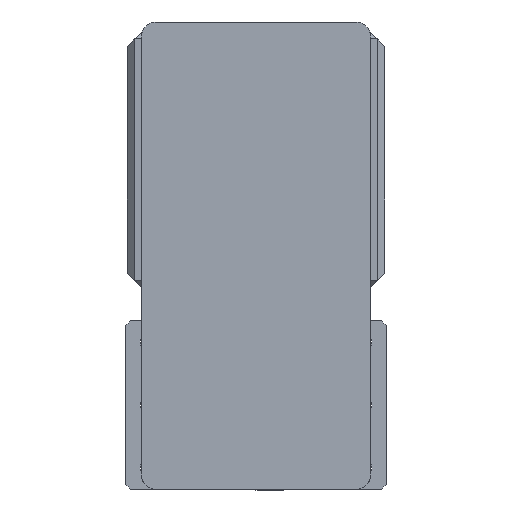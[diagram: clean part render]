
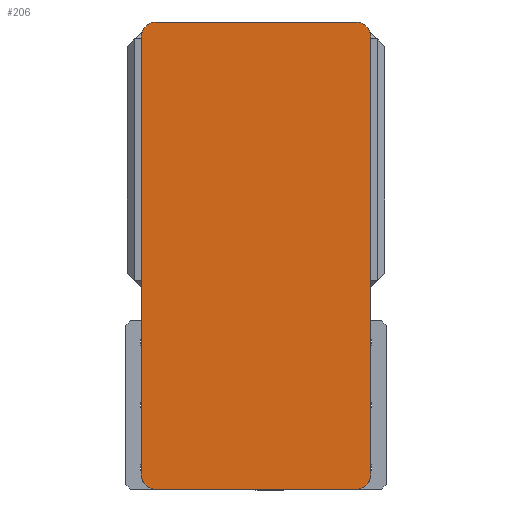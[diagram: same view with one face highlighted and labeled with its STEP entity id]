
A CAD part, left-side view. The second image highlights one B-rep face of the part: STEP entity #206.
In plain terms, the highlighted planar face has unit normal (-1, 0, 0) as drawn and (0, 0, 1) by its records, which use the part's own axes.
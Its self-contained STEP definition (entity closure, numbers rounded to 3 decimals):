
#206 = ADVANCED_FACE ( 'NONE', ( #10345 ), #19148, .T. ) ;
#280 = CARTESIAN_POINT ( 'NONE',  ( -65., 152.5, 105. ) ) ;
#453 = CARTESIAN_POINT ( 'NONE',  ( 65., 152.5, 105. ) ) ;
#500 = EDGE_CURVE ( 'NONE', #7781, #5887, #4220, .T. ) ;
#556 = VERTEX_POINT ( 'NONE', #18451 ) ;
#782 = DIRECTION ( 'NONE',  ( 0., 0., 1. ) ) ;
#800 = CARTESIAN_POINT ( 'NONE',  ( -75., -142.5, 105. ) ) ;
#1162 = CARTESIAN_POINT ( 'NONE',  ( 75., -142.5, 105. ) ) ;
#1249 = DIRECTION ( 'NONE',  ( 1., 0., 0. ) ) ;
#1511 = CARTESIAN_POINT ( 'NONE',  ( -65., 142.5, 105. ) ) ;
#1608 = ORIENTED_EDGE ( 'NONE', *, *, #3903, .T. ) ;
#1896 = VERTEX_POINT ( 'NONE', #800 ) ;
#2052 = VECTOR ( 'NONE', #10093, 1000. ) ;
#2179 = VECTOR ( 'NONE', #8740, 1000. ) ;
#2619 = VERTEX_POINT ( 'NONE', #453 ) ;
#2877 = DIRECTION ( 'NONE',  ( 0., 0., 1. ) ) ;
#3011 = DIRECTION ( 'NONE',  ( 1., 0., 0. ) ) ;
#3428 = AXIS2_PLACEMENT_3D ( 'NONE', #10147, #782, #11724 ) ;
#3707 = VERTEX_POINT ( 'NONE', #6485 ) ;
#3903 = EDGE_CURVE ( 'NONE', #5887, #1896, #6477, .T. ) ;
#4108 = AXIS2_PLACEMENT_3D ( 'NONE', #1511, #15564, #16741 ) ;
#4220 = CIRCLE ( 'NONE', #4108, 10. ) ;
#4954 = EDGE_CURVE ( 'NONE', #3707, #8727, #9796, .T. ) ;
#5160 = CARTESIAN_POINT ( 'NONE',  ( -75., -152.5, 105. ) ) ;
#5264 = ORIENTED_EDGE ( 'NONE', *, *, #500, .T. ) ;
#5332 = AXIS2_PLACEMENT_3D ( 'NONE', #19954, #10592, #1249 ) ;
#5887 = VERTEX_POINT ( 'NONE', #13084 ) ;
#6188 = LINE ( 'NONE', #6954, #2052 ) ;
#6477 = LINE ( 'NONE', #19519, #13723 ) ;
#6485 = CARTESIAN_POINT ( 'NONE',  ( 65., -152.5, 105. ) ) ;
#6954 = CARTESIAN_POINT ( 'NONE',  ( 75., 152.5, 105. ) ) ;
#7592 = CARTESIAN_POINT ( 'NONE',  ( -65., -152.5, 105. ) ) ;
#7781 = VERTEX_POINT ( 'NONE', #280 ) ;
#8109 = EDGE_CURVE ( 'NONE', #2619, #7781, #17838, .T. ) ;
#8598 = DIRECTION ( 'NONE',  ( 0., -1., 0. ) ) ;
#8727 = VERTEX_POINT ( 'NONE', #1162 ) ;
#8740 = DIRECTION ( 'NONE',  ( -1., 0., 0. ) ) ;
#9092 = CARTESIAN_POINT ( 'NONE',  ( 65., 142.5, 105. ) ) ;
#9160 = ORIENTED_EDGE ( 'NONE', *, *, #4954, .T. ) ;
#9653 = EDGE_CURVE ( 'NONE', #1896, #15066, #19730, .T. ) ;
#9796 = CIRCLE ( 'NONE', #3428, 10. ) ;
#9802 = DIRECTION ( 'NONE',  ( 1., 0., 0. ) ) ;
#10039 = ORIENTED_EDGE ( 'NONE', *, *, #15560, .T. ) ;
#10093 = DIRECTION ( 'NONE',  ( 0., 1., 0. ) ) ;
#10147 = CARTESIAN_POINT ( 'NONE',  ( 65., -142.5, 105. ) ) ;
#10345 = FACE_OUTER_BOUND ( 'NONE', #10849, .T. ) ;
#10414 = VECTOR ( 'NONE', #9802, 1000. ) ;
#10592 = DIRECTION ( 'NONE',  ( 0., 0., 1. ) ) ;
#10658 = DIRECTION ( 'NONE',  ( 1., 0., 0. ) ) ;
#10849 = EDGE_LOOP ( 'NONE', ( #11201, #9160, #10039, #18515, #18473, #5264, #1608, #15985 ) ) ;
#11201 = ORIENTED_EDGE ( 'NONE', *, *, #11250, .T. ) ;
#11250 = EDGE_CURVE ( 'NONE', #15066, #3707, #19206, .T. ) ;
#11724 = DIRECTION ( 'NONE',  ( 1., 0., 0. ) ) ;
#11803 = CARTESIAN_POINT ( 'NONE',  ( -75., 152.5, 105. ) ) ;
#12882 = AXIS2_PLACEMENT_3D ( 'NONE', #19022, #2877, #3011 ) ;
#13084 = CARTESIAN_POINT ( 'NONE',  ( -75., 142.5, 105. ) ) ;
#13723 = VECTOR ( 'NONE', #8598, 1000. ) ;
#15066 = VERTEX_POINT ( 'NONE', #7592 ) ;
#15560 = EDGE_CURVE ( 'NONE', #8727, #556, #6188, .T. ) ;
#15564 = DIRECTION ( 'NONE',  ( 0., 0., 1. ) ) ;
#15985 = ORIENTED_EDGE ( 'NONE', *, *, #9653, .T. ) ;
#16012 = AXIS2_PLACEMENT_3D ( 'NONE', #9092, #20019, #10658 ) ;
#16741 = DIRECTION ( 'NONE',  ( 1., 0., 0. ) ) ;
#16804 = CIRCLE ( 'NONE', #16012, 10. ) ;
#17838 = LINE ( 'NONE', #11803, #2179 ) ;
#18451 = CARTESIAN_POINT ( 'NONE',  ( 75., 142.5, 105. ) ) ;
#18473 = ORIENTED_EDGE ( 'NONE', *, *, #8109, .T. ) ;
#18515 = ORIENTED_EDGE ( 'NONE', *, *, #19847, .T. ) ;
#19022 = CARTESIAN_POINT ( 'NONE',  ( 0., 0., 105. ) ) ;
#19148 = PLANE ( 'NONE',  #12882 ) ;
#19206 = LINE ( 'NONE', #5160, #10414 ) ;
#19519 = CARTESIAN_POINT ( 'NONE',  ( -75., 152.5, 105. ) ) ;
#19730 = CIRCLE ( 'NONE', #5332, 10. ) ;
#19847 = EDGE_CURVE ( 'NONE', #556, #2619, #16804, .T. ) ;
#19954 = CARTESIAN_POINT ( 'NONE',  ( -65., -142.5, 105. ) ) ;
#20019 = DIRECTION ( 'NONE',  ( 0., 0., 1. ) ) ;
